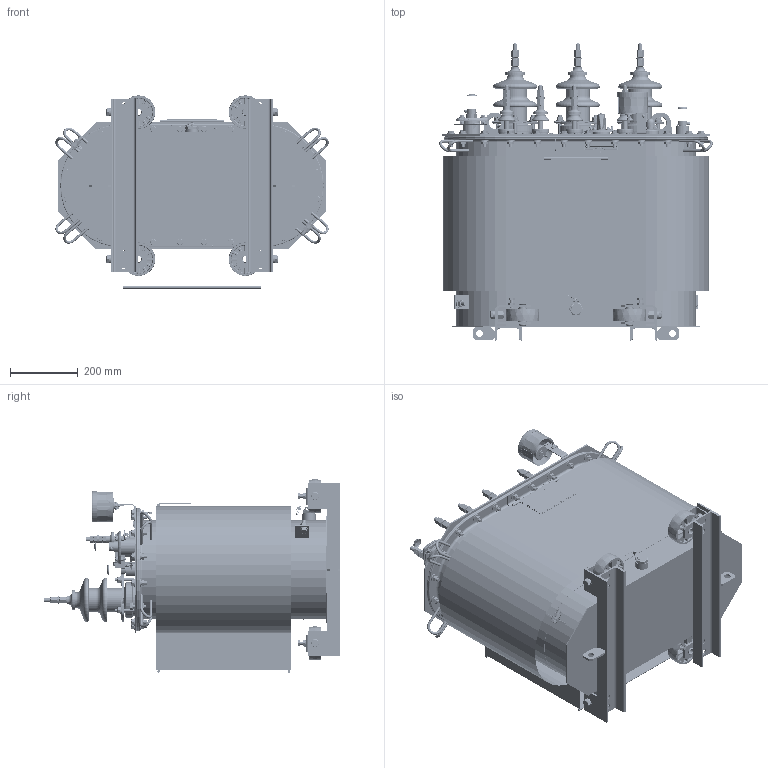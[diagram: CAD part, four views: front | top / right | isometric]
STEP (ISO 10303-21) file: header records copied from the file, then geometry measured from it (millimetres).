
FILE_DESCRIPTION(/* description */ (''),/* implementation_level */ '2;1');
FILE_NAME(/* name */ 'D:\SEARCHWORK\3Д_Модели\ТМГ-40\Серийный\ТМГ-40_10-У1(ХЛ1, УХЛ1).stp',/* time_stamp */ '2026-09-01T08:37:15+03:00',/* author */ ('53122'),/* organization */ (''),/* preprocessor_version */ 'ST-DEVELOPER v18.1',/* originating_system */ 'Autodesk Inventor 2021',/* authorisation */ '');
FILE_SCHEMA (('AUTOMOTIVE_DESIGN { 1 0 10303 214 3 1 1 }'));
Products named in the file (1): ТМГ-40_Shrinkwrap_1
Bounding box: 808.27 x 878.07 x 572.5 mm (x, y, z)
Volume: 87018971.4 mm3; surface area: 5996657 mm2
Topology: 412 solids, 413 shells, 8537 faces, 19763 edges, 12199 vertices
Faces by surface type: plane 3728, cylinder 1721, bspline 1578, cone 602, torus 458, sphere 450
Full cylindrical faces by diameter (mm): 1.6 x2, 1.619 x9, 2 x15, 3 x2, 3.1 x4, 3.4 x4, 3.8 x4, 3.96 x2, 4 x11, 4.134 x2, 4.8 x15, 4.917 x2, 4.95 x2, 5 x8, 5.3 x2, 5.5 x4, 5.94 x6, 6 x34, 6.2 x5, 6.5 x6, 7 x4, 7.1 x2, 7.5 x2, 7.92 x3, 8 x31, 8.5 x7, 9 x3, 9.9 x28, 10 x115, 10.1 x1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
Entity records: 303031 total; most frequent: CARTESIAN_POINT 110928, ORIENTED_EDGE 38944, DIRECTION 34824, EDGE_CURVE 19478, AXIS2_PLACEMENT_3D 13270, VERTEX_POINT 12197, EDGE_LOOP 9837, STYLED_ITEM 8939
